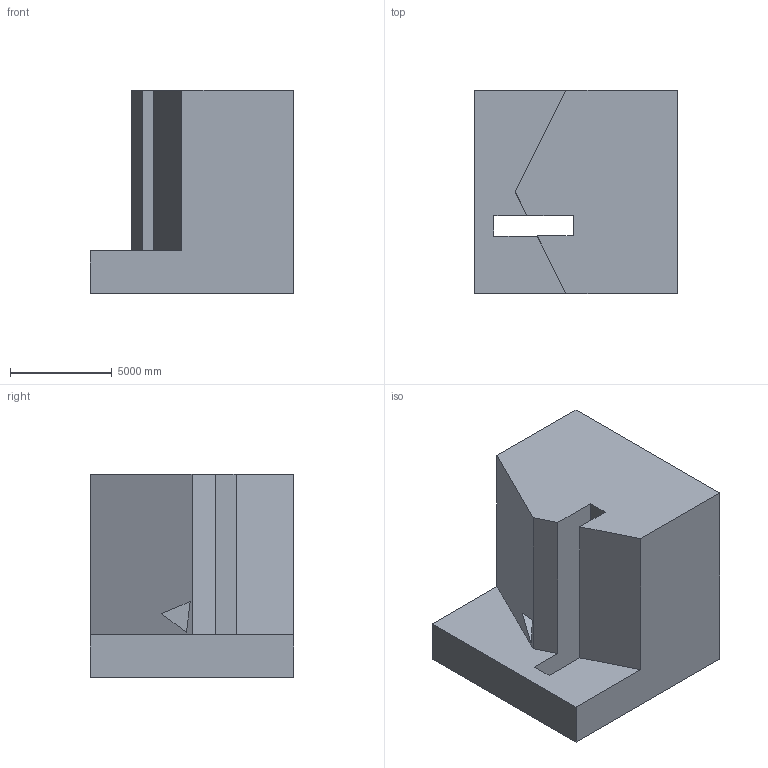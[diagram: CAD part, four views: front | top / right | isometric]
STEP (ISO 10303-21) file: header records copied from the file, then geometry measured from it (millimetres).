
FILE_DESCRIPTION (( 'STEP AP203' ), '1' );
FILE_NAME ('1216.STEP', '2022-08-18T13:13:52', ( 'user' ), ( '' ), 'SwSTEP 2.0', 'SolidWorks 2021', '' );
FILE_SCHEMA (( 'CONFIG_CONTROL_DESIGN' ));
Length unit declared in the file: centimetre
Products named in the file (1): 1216
Bounding box: 10000 x 10000 x 10000 mm (x, y, z)
Volume: 713290045530.8 mm3; surface area: 604809686 mm2
Topology: 1 solids, 1 shells, 18 faces, 48 edges, 32 vertices
Faces by surface type: plane 18
Entity records: 633 total; most frequent: CARTESIAN_POINT 99, ORIENTED_EDGE 96, DIRECTION 86, VECTOR 48, LINE 48, EDGE_CURVE 48, VERTEX_POINT 32, EDGE_LOOP 20
